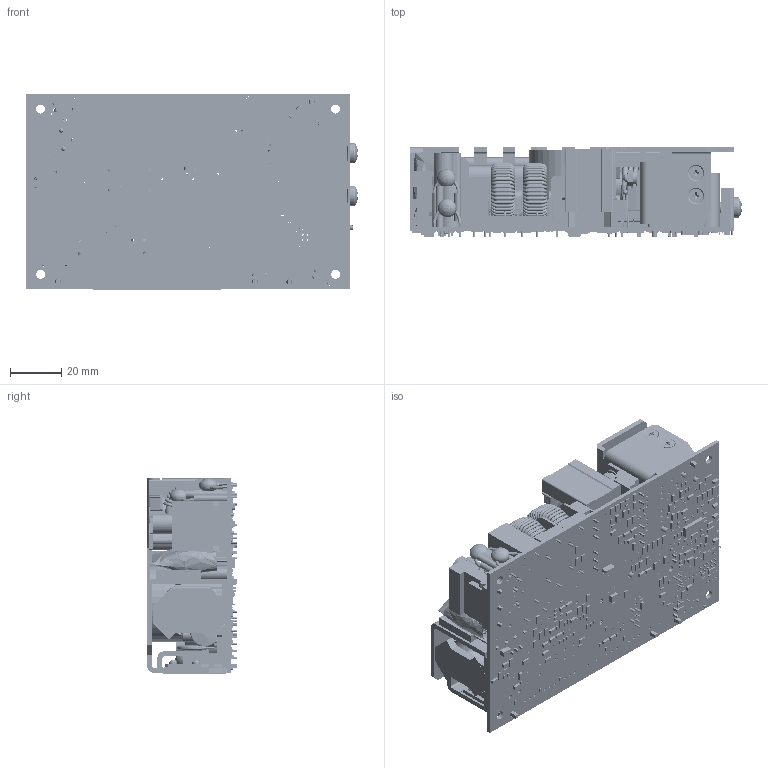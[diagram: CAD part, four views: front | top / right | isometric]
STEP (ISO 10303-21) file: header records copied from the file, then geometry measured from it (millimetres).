
FILE_DESCRIPTION (( 'STEP AP214' ), '1' );
FILE_NAME ('EMH350PSXX STEP.STEP', '2011-07-21T09:12:24', ( ' ' ), ( '' ), 'SwSTEP 2.0', 'SolidWorks 2011', '' );
FILE_SCHEMA (( 'AUTOMOTIVE_DESIGN' ));
Length unit declared in the file: millimetre
Products named in the file (85): TYCO 640426-05 INPUT CONNECTOR MATING HALF; TYCO 640445-05 INPUT CONNECTOR; CAP 8mm x 5mm 10mm Pitch_SHORT; JST B10B-PHDSS; EMH INPUT FILTER; Wire 0.9mm -2; Wire 0.9mm; Torroid Wire 0.9mm; TOROID 7.6mmDia x 3.2mm hole x 4.8mm high; Littelfuse 5mm x 20mm; PQ2625_Custom Bobbin; EMH INPUT CHOKE; Part3^EMH INPUT CHOKE; 10010985 Input Choke Base-EMH; Toroid Wire 17AWG; TOROID 20 x 10 x 8mm; Fuse&Choke Case Mk2; Heatsink-Output (Flat); Heatsink-Input (Flat); BENT_CAP-CER-UL1440_SHORT; SMALL EMH250 PS12 RATING LABEL; HAZARD LABEL_UNFOLDED VERSION; Part3^Unit Assy; Drv_Cur_TX Assy EMH250_Bobbin and Pins; Pin 0.8; Pin-1.0; Drv_Cur_TX; ROD CORE 3 x 15+ BASE; 10010504 Filter Base; ROD CORE 3mm x 15mm; SCREW-PPH_M3x6mm_6lg; Part2^Unit Assy; Part1^Unit Assy; EMH THERMISTOR; THERMISTOR SLEEVING HEATSHRINK; WOVEN_GLASS_SLEEVE 1_PLUS 8mm DIA; Thermistor_600D x 150T 250x050LS cut 112; CAP L=12.5mm W=5mm Height=12mm PITCH=10mm; SCREW CH HD M4_6mm; Fet_Insulator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
Assembly tree (179 placements, depth 3):
  Part3^Unit Assy
  Part2^Unit Assy
  Part1^Unit Assy
  EMH350PSXX STEP
    NUT-HEX_M3.0  x2
    SCREW-PPH_M3x10mm_10 lg  x2
    Cap-Splitter  x2
    SCREW-PFH(90)_M3.0x4  x8
    SCREW-PPH_M3x6mm_6lg
    Cap 5x10mm  x3
    THERM_BLKSLV
    Fuse-Small
    NEW EMH OUTPUT CONNECTOR  x2
    BENT_CAP-CER-UL1440_SHORT  x2
    EMH INPUT CHOKE  x2
      Toroid Wire 17AWG
      10010985 Input Choke Base-EMH
      Wire 0.9mm
      Part3^EMH INPUT CHOKE
      TOROID 20 x 10 x 8mm
    3 WATT .2 PITCH VERT  x2
    CAP AluElec 8mmDia x 11.5mmHigh  3.5mmPitch  x2
    Drv_Cur_TX Assy EMH250_Bobbin and Pins
      Drv_Cur_TX
      Pin 0.8  x9
      Pin-1.0  x2
    CAP AluElec 8mmDia x 20mmHigh  3.5mmPitch
    Pot - end adjust
    CAP L=26mm W=10mm Height=19.5mm PITCH=22.5mm
    CAP L=28mm W=12mm Height=26mm Pitch=22.5 
    HAZARD LABEL_UNFOLDED VERSION
    Heatsink-Input (Flat)
    M3 SPRING WASHER  x2
    WASHER-M3-PLAIN  x2
    Cap_disk_450x100_ls300_7pitch  x6
    LX_Base_Assy
      PQ CORE WASHERS_PQ2620  x2
      PIN 0.5mm SQ_10mm LONG  x2
      Part3^LX_Base_Assy
      EMH350 MAIN OUTPUT CHOKE WIRE 2 
      EMH350 MAIN OUTPUT CHOKE WIRE 
      10010262 PQ2620 CORE MACHINED(STEPPED GAP - FUO-EMH MAIN OUTPUT)  x2
      LX_Base Rev02
    EMH350 PFC CHOKE BASE+PINS
      PIN 0.5mm SQ_10mm LONG
      PIN 0.5mm SQ_10mm LONG
      PIN 0.5mm SQ_10mm LONG  x3
      PFC_Base
    RM10 CORE  x2
    TYCO 640426-05 INPUT CONNECTOR MATING HALF
    TYCO 640445-05 INPUT CONNECTOR
    CAP 8mm x 5mm 10mm Pitch_SHORT
    JST B10B-PHDSS
    SMALL EMH250 PS12 RATING LABEL
    ROD CORE 3 x 15+ BASE
      10010504 Filter Base
      ROD CORE 3mm x 15mm
    Cap 6.5x12mm  x2
    Cap 10x13mm
    PQ2625 CORE  x2
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Bounding box: 130.06 x 35.4 x 76.59 mm (x, y, z)
Volume: 139366.5 mm3; surface area: 145878.5 mm2
Topology: 411 solids, 413 shells, 6958 faces, 16534 edges, 10308 vertices
Faces by surface type: plane 3653, cylinder 2232, torus 831, cone 138, bspline 84, sphere 20
Entity records: 167229 total; most frequent: CARTESIAN_POINT 34001, DIRECTION 23083, ORIENTED_EDGE 22048, EDGE_CURVE 11026, VECTOR 7737, LINE 7737, AXIS2_PLACEMENT_3D 7673, VERTEX_POINT 7124
